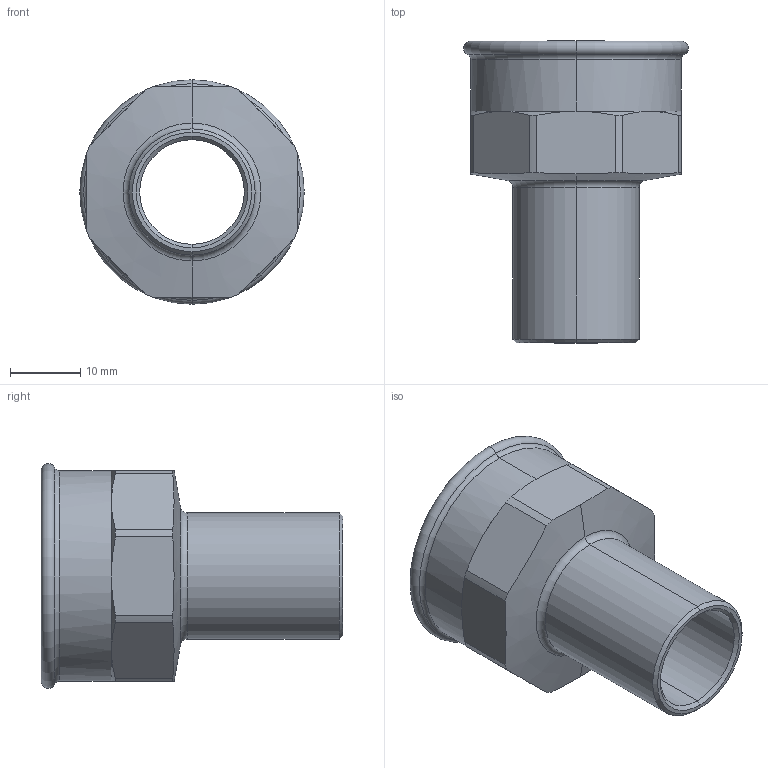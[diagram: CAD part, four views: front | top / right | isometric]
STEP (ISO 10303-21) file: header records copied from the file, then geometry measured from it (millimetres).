
FILE_DESCRIPTION (( 'STEP AP203' ), '1' );
FILE_NAME ('SP4281G Ø18 3-4.STEP', '2017-04-26T09:14:13', ( '' ), ( '' ), 'SwSTEP 2.0', 'SolidWorks 2016', '' );
FILE_SCHEMA (( 'CONFIG_CONTROL_DESIGN' ));
Length unit declared in the file: millimetre
Products named in the file (1): SP4281G Ø18 3-4
Bounding box: 32 x 43 x 32 mm (x, y, z)
Volume: 8004 mm3; surface area: 6687.2 mm2
Topology: 1 solids, 1 shells, 50 faces, 116 edges, 68 vertices
Faces by surface type: cone 18, cylinder 16, plane 10, torus 6
Entity records: 1567 total; most frequent: CARTESIAN_POINT 361, DIRECTION 248, ORIENTED_EDGE 232, EDGE_CURVE 116, AXIS2_PLACEMENT_3D 107, VERTEX_POINT 68, CIRCLE 56, EDGE_LOOP 52
